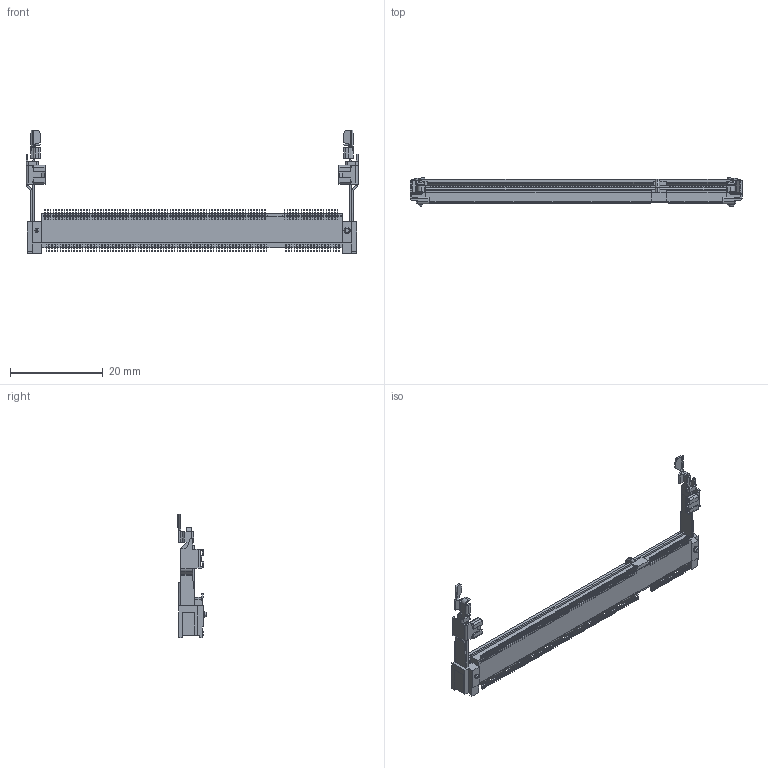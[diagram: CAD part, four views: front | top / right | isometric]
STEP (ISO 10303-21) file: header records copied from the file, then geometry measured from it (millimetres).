
FILE_DESCRIPTION((''),'2;1');
FILE_NAME('C-1565917-4','2011-03-07T',('workeradm'),('Tyco Electronics Ltd.'),'PRO/ENGINEER BY PARAMETRIC TECHNOLOGY CORPORATION, 2009300','PRO/ENGINEER BY PARAMETRIC TECHNOLOGY CORPORATION, 2009300','');
FILE_SCHEMA(('AUTOMOTIVE_DESIGN { 1 0 10303 214 1 1 1 1 }'));
Products named in the file (1): C-1565917-4
Bounding box: 71.5 x 6.18 x 26.55 mm (x, y, z)
Volume: 2110.3 mm3; surface area: 3181.5 mm2
Topology: 1 solids, 1 shells, 3621 faces, 9988 edges, 6565 vertices
Faces by surface type: plane 3122, cylinder 479, bspline 14, cone 4, torus 2
Entity records: 114067 total; most frequent: CARTESIAN_POINT 20657, ORIENTED_EDGE 19976, DIRECTION 18146, EDGE_CURVE 9988, VECTOR 9016, LINE 9016, VERTEX_POINT 6565, AXIS2_PLACEMENT_3D 4565
